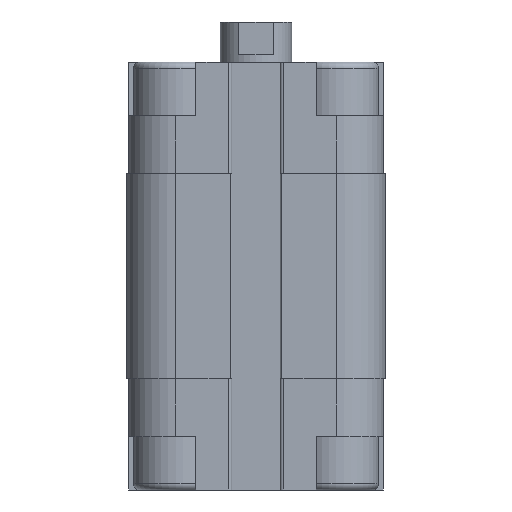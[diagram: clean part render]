
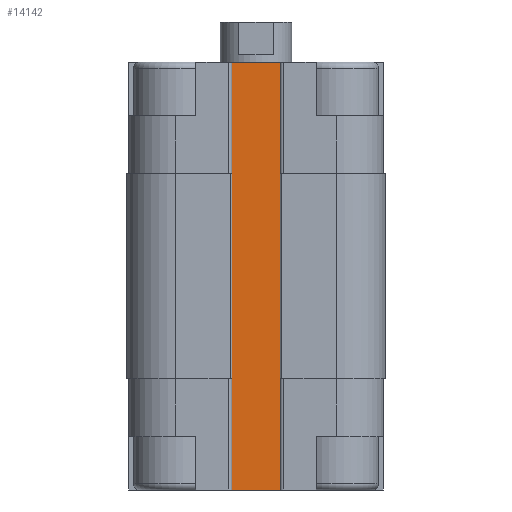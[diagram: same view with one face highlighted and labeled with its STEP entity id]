
A CAD part, front view. The second image highlights one B-rep face of the part: STEP entity #14142.
In plain terms, the highlighted planar face has unit normal (0, -1, 0).
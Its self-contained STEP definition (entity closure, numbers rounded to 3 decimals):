
#198 = VECTOR ( 'NONE', #7694, 1000. ) ;
#285 = CARTESIAN_POINT ( 'NONE',  ( 3., -9.5, -35.5 ) ) ;
#406 = EDGE_CURVE ( 'NONE', #2981, #8556, #13543, .T. ) ;
#515 = EDGE_CURVE ( 'NONE', #9530, #15819, #12326, .T. ) ;
#844 = ORIENTED_EDGE ( 'NONE', *, *, #9509, .F. ) ;
#990 = DIRECTION ( 'NONE',  ( 1., 0., 0. ) ) ;
#1167 = ORIENTED_EDGE ( 'NONE', *, *, #9177, .T. ) ;
#1185 = VERTEX_POINT ( 'NONE', #6318 ) ;
#1309 = PLANE ( 'NONE',  #2761 ) ;
#1379 = ORIENTED_EDGE ( 'NONE', *, *, #3437, .T. ) ;
#1560 = EDGE_CURVE ( 'NONE', #9687, #8556, #3647, .T. ) ;
#1601 = VECTOR ( 'NONE', #13790, 1000. ) ;
#1651 = CARTESIAN_POINT ( 'NONE',  ( -3., -9.5, -35.5 ) ) ;
#1782 = LINE ( 'NONE', #5735, #2881 ) ;
#1863 = EDGE_CURVE ( 'NONE', #10574, #10670, #15476, .T. ) ;
#1869 = CARTESIAN_POINT ( 'NONE',  ( 3., -9.5, -12.5 ) ) ;
#1976 = VECTOR ( 'NONE', #16746, 1000. ) ;
#2584 = ORIENTED_EDGE ( 'NONE', *, *, #15340, .T. ) ;
#2761 = AXIS2_PLACEMENT_3D ( 'NONE', #17290, #7904, #13415 ) ;
#2881 = VECTOR ( 'NONE', #13961, 1000. ) ;
#2981 = VERTEX_POINT ( 'NONE', #5933 ) ;
#3375 = EDGE_CURVE ( 'NONE', #15819, #7699, #1782, .T. ) ;
#3437 = EDGE_CURVE ( 'NONE', #14452, #13217, #16520, .T. ) ;
#3647 = LINE ( 'NONE', #14342, #198 ) ;
#3776 = DIRECTION ( 'NONE',  ( 0., 0., 1. ) ) ;
#3894 = ORIENTED_EDGE ( 'NONE', *, *, #1863, .T. ) ;
#3931 = VECTOR ( 'NONE', #3776, 1000. ) ;
#4163 = CARTESIAN_POINT ( 'NONE',  ( -3.2, -9.5, -35.5 ) ) ;
#4204 = ORIENTED_EDGE ( 'NONE', *, *, #1560, .F. ) ;
#4248 = VECTOR ( 'NONE', #10465, 1000. ) ;
#4683 = CARTESIAN_POINT ( 'NONE',  ( -3.2, -9.5, -35.5 ) ) ;
#4767 = CARTESIAN_POINT ( 'NONE',  ( 3.2, -9.5, -12.5 ) ) ;
#4902 = EDGE_CURVE ( 'NONE', #7699, #13217, #6083, .T. ) ;
#4980 = ORIENTED_EDGE ( 'NONE', *, *, #5469, .F. ) ;
#5002 = CARTESIAN_POINT ( 'NONE',  ( 3., -9.5, -48. ) ) ;
#5469 = EDGE_CURVE ( 'NONE', #14452, #9452, #13896, .T. ) ;
#5573 = EDGE_LOOP ( 'NONE', ( #9930, #16332, #11739, #844, #14406, #4204, #1167, #2584, #3894, #16585, #4980, #1379 ) ) ;
#5735 = CARTESIAN_POINT ( 'NONE',  ( -3., -9.5, -12.5 ) ) ;
#5740 = LINE ( 'NONE', #4683, #15976 ) ;
#5933 = CARTESIAN_POINT ( 'NONE',  ( -3.2, -9.5, -35.5 ) ) ;
#6083 = LINE ( 'NONE', #11427, #12879 ) ;
#6318 = CARTESIAN_POINT ( 'NONE',  ( 3., -9.5, -48. ) ) ;
#6545 = CARTESIAN_POINT ( 'NONE',  ( -3., -9.5, -48. ) ) ;
#7006 = VECTOR ( 'NONE', #17246, 1000. ) ;
#7317 = DIRECTION ( 'NONE',  ( 1., 0., 0. ) ) ;
#7330 = DIRECTION ( 'NONE',  ( 1., 0., 0. ) ) ;
#7694 = DIRECTION ( 'NONE',  ( 0., 0., 1. ) ) ;
#7699 = VERTEX_POINT ( 'NONE', #14695 ) ;
#7904 = DIRECTION ( 'NONE',  ( 0., -1., 0. ) ) ;
#8073 = FACE_OUTER_BOUND ( 'NONE', #5573, .T. ) ;
#8458 = VECTOR ( 'NONE', #7330, 1000. ) ;
#8556 = VERTEX_POINT ( 'NONE', #1651 ) ;
#9029 = CARTESIAN_POINT ( 'NONE',  ( 3., -9.5, 0. ) ) ;
#9177 = EDGE_CURVE ( 'NONE', #9687, #1185, #10556, .T. ) ;
#9224 = VECTOR ( 'NONE', #990, 1000. ) ;
#9452 = VERTEX_POINT ( 'NONE', #4767 ) ;
#9509 = EDGE_CURVE ( 'NONE', #2981, #9530, #5740, .T. ) ;
#9530 = VERTEX_POINT ( 'NONE', #9866 ) ;
#9687 = VERTEX_POINT ( 'NONE', #15632 ) ;
#9866 = CARTESIAN_POINT ( 'NONE',  ( -3.2, -9.5, -12.5 ) ) ;
#9930 = ORIENTED_EDGE ( 'NONE', *, *, #4902, .F. ) ;
#10037 = CARTESIAN_POINT ( 'NONE',  ( 3.2, -9.5, -35.5 ) ) ;
#10465 = DIRECTION ( 'NONE',  ( 1., 0., 0. ) ) ;
#10556 = LINE ( 'NONE', #6545, #9224 ) ;
#10574 = VERTEX_POINT ( 'NONE', #285 ) ;
#10670 = VERTEX_POINT ( 'NONE', #10037 ) ;
#11094 = CARTESIAN_POINT ( 'NONE',  ( -3.2, -9.5, -12.5 ) ) ;
#11427 = CARTESIAN_POINT ( 'NONE',  ( -3., -9.5, 0. ) ) ;
#11739 = ORIENTED_EDGE ( 'NONE', *, *, #515, .F. ) ;
#12326 = LINE ( 'NONE', #11094, #8458 ) ;
#12591 = DIRECTION ( 'NONE',  ( 1., 0., 0. ) ) ;
#12879 = VECTOR ( 'NONE', #7317, 1000. ) ;
#13217 = VERTEX_POINT ( 'NONE', #9029 ) ;
#13415 = DIRECTION ( 'NONE',  ( -1., 0., 0. ) ) ;
#13543 = LINE ( 'NONE', #4163, #7006 ) ;
#13634 = CARTESIAN_POINT ( 'NONE',  ( 9., -9.5, -12.5 ) ) ;
#13646 = CARTESIAN_POINT ( 'NONE',  ( -3., -9.5, -12.5 ) ) ;
#13790 = DIRECTION ( 'NONE',  ( 0., 0., 1. ) ) ;
#13896 = LINE ( 'NONE', #13634, #15971 ) ;
#13961 = DIRECTION ( 'NONE',  ( 0., 0., 1. ) ) ;
#14060 = DIRECTION ( 'NONE',  ( 0., 0., 1. ) ) ;
#14142 = ADVANCED_FACE ( 'NONE', ( #8073 ), #1309, .T. ) ;
#14235 = CARTESIAN_POINT ( 'NONE',  ( -3.2, -9.5, -35.5 ) ) ;
#14292 = LINE ( 'NONE', #5002, #3931 ) ;
#14342 = CARTESIAN_POINT ( 'NONE',  ( -3., -9.5, -48. ) ) ;
#14406 = ORIENTED_EDGE ( 'NONE', *, *, #406, .T. ) ;
#14452 = VERTEX_POINT ( 'NONE', #16925 ) ;
#14695 = CARTESIAN_POINT ( 'NONE',  ( -3., -9.5, 0. ) ) ;
#15340 = EDGE_CURVE ( 'NONE', #1185, #10574, #14292, .T. ) ;
#15476 = LINE ( 'NONE', #14235, #4248 ) ;
#15629 = EDGE_CURVE ( 'NONE', #10670, #9452, #16574, .T. ) ;
#15632 = CARTESIAN_POINT ( 'NONE',  ( -3., -9.5, -48. ) ) ;
#15819 = VERTEX_POINT ( 'NONE', #13646 ) ;
#15971 = VECTOR ( 'NONE', #12591, 1000. ) ;
#15976 = VECTOR ( 'NONE', #14060, 1000. ) ;
#16332 = ORIENTED_EDGE ( 'NONE', *, *, #3375, .F. ) ;
#16488 = CARTESIAN_POINT ( 'NONE',  ( 3.2, -9.5, -35.5 ) ) ;
#16520 = LINE ( 'NONE', #1869, #1601 ) ;
#16574 = LINE ( 'NONE', #16488, #1976 ) ;
#16585 = ORIENTED_EDGE ( 'NONE', *, *, #15629, .T. ) ;
#16746 = DIRECTION ( 'NONE',  ( 0., 0., 1. ) ) ;
#16925 = CARTESIAN_POINT ( 'NONE',  ( 3., -9.5, -12.5 ) ) ;
#17246 = DIRECTION ( 'NONE',  ( 1., 0., 0. ) ) ;
#17290 = CARTESIAN_POINT ( 'NONE',  ( -3., -9.5, -12.5 ) ) ;
